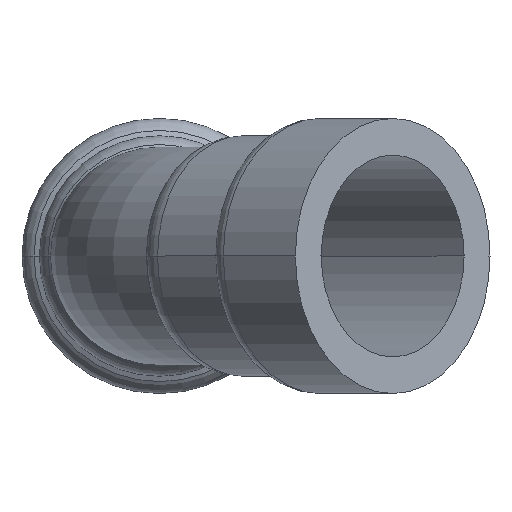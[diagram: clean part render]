
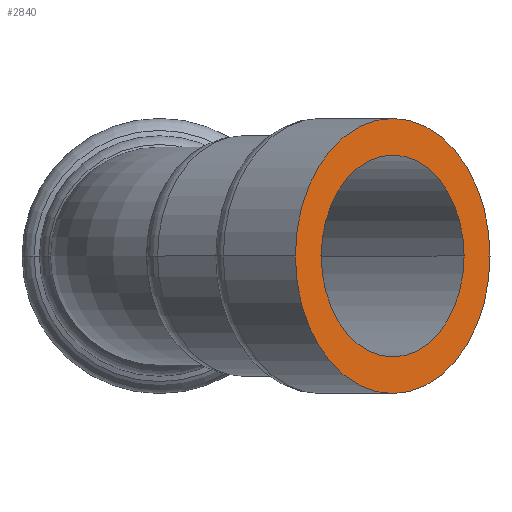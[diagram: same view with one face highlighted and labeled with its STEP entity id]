
A CAD part, left-side view. The second image highlights one B-rep face of the part: STEP entity #2840.
In plain terms, the highlighted planar face has unit normal (-0.707, -0.707, 0).
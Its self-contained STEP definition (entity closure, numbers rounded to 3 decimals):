
#2360=CARTESIAN_POINT('',(49.545,17.03,
0.));
#2370=VERTEX_POINT('',#2360);
#2400=CARTESIAN_POINT('',(59.374,7.201,
0.));
#2410=DIRECTION('',(-0.707,-0.707,
0.));
#2420=DIRECTION('',(-0.707,0.707,
0.));
#2430=AXIS2_PLACEMENT_3D('',#2400,#2410,#2420);
#2440=CIRCLE('',#2430,13.9);
#2450=CARTESIAN_POINT('',(69.203,-2.628,
0.));
#2460=VERTEX_POINT('',#2450);
#2470=EDGE_CURVE('',#2460,#2370,#2440,.T.);
#2590=CARTESIAN_POINT('',(46.169,20.406,
0.));
#2600=DIRECTION('',(-0.707,-0.707,
0.));
#2610=DIRECTION('',(0.707,-0.707,
0.));
#2620=AXIS2_PLACEMENT_3D('',#2590,#2600,#2610);
#2630=PLANE('',#2620);
#2640=EDGE_CURVE('',#2370,#2460,#2440,.T.);
#2650=ORIENTED_EDGE('',*,*,#2640,.F.);
#2660=ORIENTED_EDGE('',*,*,#2470,.F.);
#2670=EDGE_LOOP('',(#2660,#2650));
#2680=FACE_BOUND('',#2670,.T.);
#2690=CARTESIAN_POINT('',(59.374,7.201,
0.));
#2700=DIRECTION('',(0.707,0.707,
0.));
#2710=DIRECTION('',(-0.707,0.707,
0.));
#2720=AXIS2_PLACEMENT_3D('',#2690,#2700,#2710);
#2730=CIRCLE('',#2720,18.95);
#2740=CARTESIAN_POINT('',(45.974,20.6,
0.));
#2750=VERTEX_POINT('',#2740);
#2760=CARTESIAN_POINT('',(72.774,-6.199,
0.));
#2770=VERTEX_POINT('',#2760);
#2780=EDGE_CURVE('',#2750,#2770,#2730,.T.);
#2790=ORIENTED_EDGE('',*,*,#2780,.F.);
#2800=EDGE_CURVE('',#2770,#2750,#2730,.T.);
#2810=ORIENTED_EDGE('',*,*,#2800,.F.);
#2820=EDGE_LOOP('',(#2810,#2790));
#2830=FACE_OUTER_BOUND('',#2820,.T.);
#2840=ADVANCED_FACE('',(#2680,#2830),#2630,.T.);
